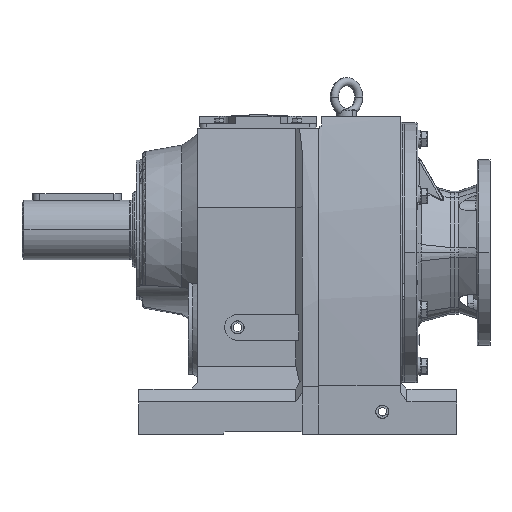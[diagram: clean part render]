
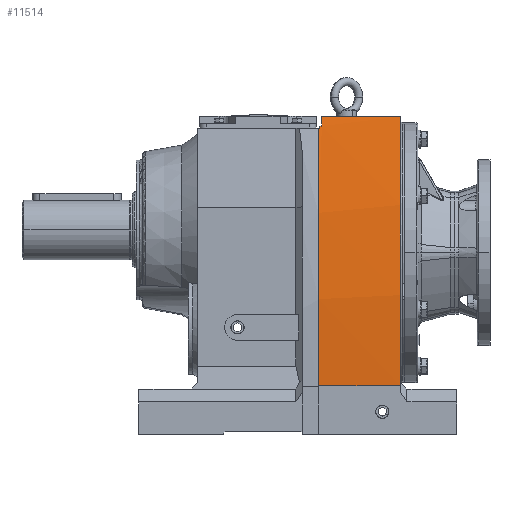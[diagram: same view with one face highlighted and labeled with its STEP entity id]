
A CAD part, front view. The second image highlights one B-rep face of the part: STEP entity #11514.
In plain terms, the highlighted cylindrical face has radius 1250 mm (diameter 2500 mm), a partial arc.
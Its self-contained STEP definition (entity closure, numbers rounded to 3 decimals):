
#182 = VERTEX_POINT ( 'NONE', #3367 ) ;
#183 = VERTEX_POINT ( 'NONE', #3366 ) ;
#269 = VERTEX_POINT ( 'NONE', #3280 ) ;
#270 = VERTEX_POINT ( 'NONE', #3279 ) ;
#413 = EDGE_LOOP ( 'NONE', ( #19983, #19982, #19981, #19979, #19978, #19980, #19977, #19976 ) ) ;
#1348 = DIRECTION ( 'NONE',  ( 0., 0., 1. ) ) ;
#1349 = DIRECTION ( 'NONE',  ( -1., 0., 0. ) ) ;
#1350 = CARTESIAN_POINT ( 'NONE',  ( 414., 1023.274, -174.534 ) ) ;
#3279 = CARTESIAN_POINT ( 'NONE',  ( 288., -225., -240.2 ) ) ;
#3280 = CARTESIAN_POINT ( 'NONE',  ( 414., -225., -240.2 ) ) ;
#3366 = CARTESIAN_POINT ( 'NONE',  ( 290., -181.958, 157. ) ) ;
#3367 = CARTESIAN_POINT ( 'NONE',  ( 288., -181.958, 157. ) ) ;
#3607 = LINE ( 'NONE', #16214, #36812 ) ;
#3629 = LINE ( 'NONE', #17652, #36913 ) ;
#3675 = LINE ( 'NONE', #17795, #37003 ) ;
#6965 = EDGE_CURVE ( 'NONE', #182, #183, #29905, .T. ) ;
#7428 = AXIS2_PLACEMENT_3D ( 'NONE', #1350, #1349, #1348 ) ;
#7609 = VECTOR ( 'NONE', #35981, 1000. ) ;
#10047 = VERTEX_POINT ( 'NONE', #35392 ) ;
#10101 = VERTEX_POINT ( 'NONE', #35332 ) ;
#10249 = VERTEX_POINT ( 'NONE', #35150 ) ;
#10271 = VERTEX_POINT ( 'NONE', #35124 ) ;
#11514 = ADVANCED_FACE ( 'NONE', ( #29628 ), #29627, .T. ) ;
#16183 = DIRECTION ( 'NONE',  ( 0., 0., 1. ) ) ;
#16185 = DIRECTION ( 'NONE',  ( -1., 0., 0. ) ) ;
#16205 = CARTESIAN_POINT ( 'NONE',  ( 293., 1023.274, -174.534 ) ) ;
#16208 = DIRECTION ( 'NONE',  ( 1., 0., 0. ) ) ;
#16214 = CARTESIAN_POINT ( 'NONE',  ( 414., -176.92, 174.8 ) ) ;
#16427 = DIRECTION ( 'NONE',  ( 0., 0., 1. ) ) ;
#16430 = DIRECTION ( 'NONE',  ( -1., 0., 0. ) ) ;
#16432 = CARTESIAN_POINT ( 'NONE',  ( 414., 1023.274, -174.534 ) ) ;
#17651 = DIRECTION ( 'NONE',  ( 1., 0., 0. ) ) ;
#17652 = CARTESIAN_POINT ( 'NONE',  ( 414., -225., -240.2 ) ) ;
#17788 = DIRECTION ( 'NONE',  ( 0., 0., 1. ) ) ;
#17789 = DIRECTION ( 'NONE',  ( -1., 0., 0. ) ) ;
#17790 = CARTESIAN_POINT ( 'NONE',  ( 288., 1023.274, -174.534 ) ) ;
#17791 = DIRECTION ( 'NONE',  ( 0., 1., 0. ) ) ;
#17792 = DIRECTION ( 'NONE',  ( -1., 0., 0. ) ) ;
#17793 = CARTESIAN_POINT ( 'NONE',  ( 290., 1023.274, -174.534 ) ) ;
#17794 = DIRECTION ( 'NONE',  ( -1., 0., 0. ) ) ;
#17795 = CARTESIAN_POINT ( 'NONE',  ( 293., -181.129, 160. ) ) ;
#19976 = ORIENTED_EDGE ( 'NONE', *, *, #24563, .T. ) ;
#19977 = ORIENTED_EDGE ( 'NONE', *, *, #24677, .F. ) ;
#19978 = ORIENTED_EDGE ( 'NONE', *, *, #24671, .T. ) ;
#19979 = ORIENTED_EDGE ( 'NONE', *, *, #24619, .T. ) ;
#19980 = ORIENTED_EDGE ( 'NONE', *, *, #24676, .F. ) ;
#19981 = ORIENTED_EDGE ( 'NONE', *, *, #24565, .F. ) ;
#19982 = ORIENTED_EDGE ( 'NONE', *, *, #6965, .F. ) ;
#19983 = ORIENTED_EDGE ( 'NONE', *, *, #24564, .F. ) ;
#24563 = EDGE_CURVE ( 'NONE', #10271, #10249, #3675, .T. ) ;
#24564 = EDGE_CURVE ( 'NONE', #183, #10249, #37004, .T. ) ;
#24565 = EDGE_CURVE ( 'NONE', #270, #182, #37075, .T. ) ;
#24619 = EDGE_CURVE ( 'NONE', #270, #269, #3629, .T. ) ;
#24671 = EDGE_CURVE ( 'NONE', #269, #10047, #36820, .T. ) ;
#24676 = EDGE_CURVE ( 'NONE', #10101, #10047, #3607, .T. ) ;
#24677 = EDGE_CURVE ( 'NONE', #10271, #10101, #36815, .T. ) ;
#29627 = CYLINDRICAL_SURFACE ( 'NONE', #7428, 1250. ) ;
#29628 = FACE_OUTER_BOUND ( 'NONE', #413, .T. ) ;
#29905 = LINE ( 'NONE', #35982, #7609 ) ;
#35124 = CARTESIAN_POINT ( 'NONE',  ( 293., -181.129, 160. ) ) ;
#35150 = CARTESIAN_POINT ( 'NONE',  ( 290., -181.129, 160. ) ) ;
#35332 = CARTESIAN_POINT ( 'NONE',  ( 293., -176.92, 174.8 ) ) ;
#35392 = CARTESIAN_POINT ( 'NONE',  ( 414., -176.92, 174.8 ) ) ;
#35981 = DIRECTION ( 'NONE',  ( 1., 0., 0. ) ) ;
#35982 = CARTESIAN_POINT ( 'NONE',  ( 414., -181.958, 157. ) ) ;
#36811 = AXIS2_PLACEMENT_3D ( 'NONE', #16205, #16185, #16183 ) ;
#36812 = VECTOR ( 'NONE', #16208, 1000. ) ;
#36815 = CIRCLE ( 'NONE', #36811, 1250. ) ;
#36819 = AXIS2_PLACEMENT_3D ( 'NONE', #16432, #16430, #16427 ) ;
#36820 = CIRCLE ( 'NONE', #36819, 1250. ) ;
#36913 = VECTOR ( 'NONE', #17651, 1000. ) ;
#36998 = AXIS2_PLACEMENT_3D ( 'NONE', #17790, #17789, #17788 ) ;
#37002 = AXIS2_PLACEMENT_3D ( 'NONE', #17793, #17792, #17791 ) ;
#37003 = VECTOR ( 'NONE', #17794, 1000. ) ;
#37004 = CIRCLE ( 'NONE', #37002, 1250. ) ;
#37075 = CIRCLE ( 'NONE', #36998, 1250. ) ;
